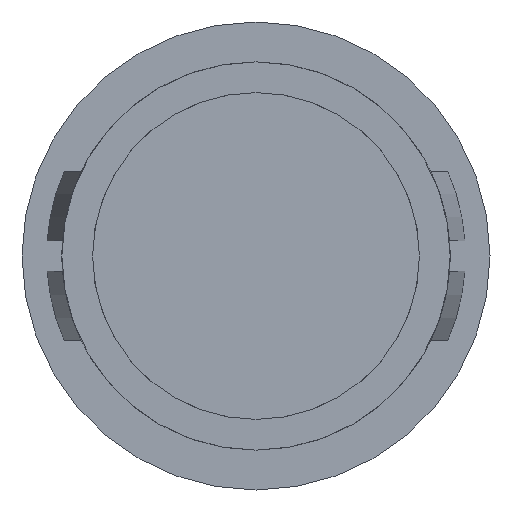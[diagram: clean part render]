
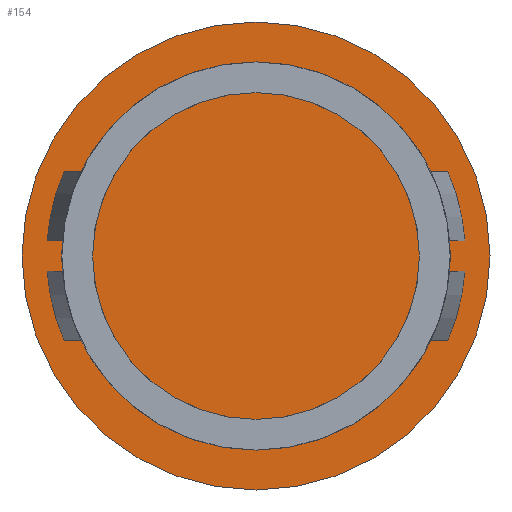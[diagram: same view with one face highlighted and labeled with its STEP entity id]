
A CAD part, front view. The second image highlights one B-rep face of the part: STEP entity #154.
In plain terms, the highlighted planar face has unit normal (0, -1, 0).
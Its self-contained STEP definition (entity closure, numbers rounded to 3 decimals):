
#8 = VERTEX_POINT ( 'NONE', #370 ) ;
#35 = ORIENTED_EDGE ( 'NONE', *, *, #1662, .T. ) ;
#39 = EDGE_CURVE ( 'NONE', #289, #1667, #551, .T. ) ;
#45 = VERTEX_POINT ( 'NONE', #616 ) ;
#62 = VERTEX_POINT ( 'NONE', #749 ) ;
#69 = ORIENTED_EDGE ( 'NONE', *, *, #99, .T. ) ;
#71 = EDGE_CURVE ( 'NONE', #62, #45, #850, .T. ) ;
#72 = EDGE_LOOP ( 'NONE', ( #235, #169 ) ) ;
#99 = EDGE_CURVE ( 'NONE', #289, #1651, #1064, .T. ) ;
#104 = EDGE_LOOP ( 'NONE', ( #69, #35, #1615, #800, #175, #225 ) ) ;
#121 = EDGE_LOOP ( 'NONE', ( #1690, #1637, #1609, #998, #488, #179 ) ) ;
#136 = VERTEX_POINT ( 'NONE', #1223 ) ;
#137 = EDGE_CURVE ( 'NONE', #240, #722, #1224, .T. ) ;
#154 = ADVANCED_FACE ( 'NONE', ( #1299, #1300, #1301 ), #1302, .T. ) ;
#163 = EDGE_CURVE ( 'NONE', #451, #267, #1357, .T. ) ;
#169 = ORIENTED_EDGE ( 'NONE', *, *, #299, .F. ) ;
#175 = ORIENTED_EDGE ( 'NONE', *, *, #1521, .F. ) ;
#179 = ORIENTED_EDGE ( 'NONE', *, *, #137, .T. ) ;
#225 = ORIENTED_EDGE ( 'NONE', *, *, #39, .F. ) ;
#235 = ORIENTED_EDGE ( 'NONE', *, *, #71, .F. ) ;
#240 = VERTEX_POINT ( 'NONE', #456 ) ;
#267 = VERTEX_POINT ( 'NONE', #533 ) ;
#289 = VERTEX_POINT ( 'NONE', #602 ) ;
#297 = EDGE_CURVE ( 'NONE', #722, #451, #650, .T. ) ;
#299 = EDGE_CURVE ( 'NONE', #45, #62, #661, .T. ) ;
#323 = EDGE_CURVE ( 'NONE', #240, #1685, #694, .T. ) ;
#370 = CARTESIAN_POINT ( 'NONE',  ( 0., 9.9, 10.65 ) ) ;
#434 = EDGE_CURVE ( 'NONE', #8, #1309, #755, .T. ) ;
#451 = VERTEX_POINT ( 'NONE', #763 ) ;
#456 = CARTESIAN_POINT ( 'NONE',  ( 8.026, 9.9, -7. ) ) ;
#488 = ORIENTED_EDGE ( 'NONE', *, *, #323, .F. ) ;
#533 = CARTESIAN_POINT ( 'NONE',  ( -10.537, 9.9, -7. ) ) ;
#551 = LINE ( 'NONE', #552, #553 ) ;
#552 = CARTESIAN_POINT ( 'NONE',  ( -15.25, 9.9, 7. ) ) ;
#553 = VECTOR ( 'NONE', #554, 1000. ) ;
#554 = DIRECTION ( 'NONE',  ( 1., 0., 0. ) ) ;
#602 = CARTESIAN_POINT ( 'NONE',  ( -10.537, 9.9, 7. ) ) ;
#616 = CARTESIAN_POINT ( 'NONE',  ( 0., 9.9, -15.25 ) ) ;
#626 = CARTESIAN_POINT ( 'NONE',  ( 0., 9.9, 12.65 ) ) ;
#650 = CIRCLE ( 'NONE', #651, 12.65 ) ;
#651 = AXIS2_PLACEMENT_3D ( 'NONE', #652, #653, #654 ) ;
#652 = CARTESIAN_POINT ( 'NONE',  ( 0., 9.9, 0. ) ) ;
#653 = DIRECTION ( 'NONE',  ( 0., 1., 0. ) ) ;
#654 = DIRECTION ( 'NONE',  ( 0., 0., 1. ) ) ;
#661 = CIRCLE ( 'NONE', #662, 15.25 ) ;
#662 = AXIS2_PLACEMENT_3D ( 'NONE', #663, #664, #665 ) ;
#663 = CARTESIAN_POINT ( 'NONE',  ( 0., 9.9, 0. ) ) ;
#664 = DIRECTION ( 'NONE',  ( 0., 1., 0. ) ) ;
#665 = DIRECTION ( 'NONE',  ( 0., 0., 1. ) ) ;
#694 = CIRCLE ( 'NONE', #695, 10.65 ) ;
#695 = AXIS2_PLACEMENT_3D ( 'NONE', #696, #697, #698 ) ;
#696 = CARTESIAN_POINT ( 'NONE',  ( 0., 9.9, 0. ) ) ;
#697 = DIRECTION ( 'NONE',  ( 0., 1., 0. ) ) ;
#698 = DIRECTION ( 'NONE',  ( 0., 0., -1. ) ) ;
#722 = VERTEX_POINT ( 'NONE', #934 ) ;
#749 = CARTESIAN_POINT ( 'NONE',  ( 0., 9.9, 15.25 ) ) ;
#755 = CIRCLE ( 'NONE', #756, 10.65 ) ;
#756 = AXIS2_PLACEMENT_3D ( 'NONE', #760, #761, #762 ) ;
#760 = CARTESIAN_POINT ( 'NONE',  ( 0., 9.9, 0. ) ) ;
#761 = DIRECTION ( 'NONE',  ( 0., 1., 0. ) ) ;
#762 = DIRECTION ( 'NONE',  ( 0., 0., -1. ) ) ;
#763 = CARTESIAN_POINT ( 'NONE',  ( 0., 9.9, -12.65 ) ) ;
#764 = CIRCLE ( 'NONE', #765, 12.65 ) ;
#765 = AXIS2_PLACEMENT_3D ( 'NONE', #766, #767, #768 ) ;
#766 = CARTESIAN_POINT ( 'NONE',  ( 0., 9.9, 0. ) ) ;
#767 = DIRECTION ( 'NONE',  ( 0., 1., 0. ) ) ;
#768 = DIRECTION ( 'NONE',  ( 0., 0., 1. ) ) ;
#800 = ORIENTED_EDGE ( 'NONE', *, *, #434, .F. ) ;
#806 = CARTESIAN_POINT ( 'NONE',  ( -8.026, 9.9, 7. ) ) ;
#850 = CIRCLE ( 'NONE', #851, 15.25 ) ;
#851 = AXIS2_PLACEMENT_3D ( 'NONE', #852, #853, #857 ) ;
#852 = CARTESIAN_POINT ( 'NONE',  ( 0., 9.9, 0. ) ) ;
#853 = DIRECTION ( 'NONE',  ( 0., 1., 0. ) ) ;
#857 = DIRECTION ( 'NONE',  ( 0., 0., 1. ) ) ;
#905 = CARTESIAN_POINT ( 'NONE',  ( 0., 9.9, -10.65 ) ) ;
#934 = CARTESIAN_POINT ( 'NONE',  ( 10.537, 9.9, -7. ) ) ;
#998 = ORIENTED_EDGE ( 'NONE', *, *, #1522, .F. ) ;
#1064 = CIRCLE ( 'NONE', #1065, 12.65 ) ;
#1065 = AXIS2_PLACEMENT_3D ( 'NONE', #1066, #1067, #1068 ) ;
#1066 = CARTESIAN_POINT ( 'NONE',  ( 0., 9.9, 0. ) ) ;
#1067 = DIRECTION ( 'NONE',  ( 0., 1., 0. ) ) ;
#1068 = DIRECTION ( 'NONE',  ( 0., 0., 1. ) ) ;
#1196 = CARTESIAN_POINT ( 'NONE',  ( -8.026, 9.9, -7. ) ) ;
#1217 = CARTESIAN_POINT ( 'NONE',  ( 8.026, 9.9, 7. ) ) ;
#1223 = CARTESIAN_POINT ( 'NONE',  ( 10.537, 9.9, 7. ) ) ;
#1224 = LINE ( 'NONE', #1225, #1226 ) ;
#1225 = CARTESIAN_POINT ( 'NONE',  ( -15.25, 9.9, -7. ) ) ;
#1226 = VECTOR ( 'NONE', #1227, 1000. ) ;
#1227 = DIRECTION ( 'NONE',  ( 1., 0., 0. ) ) ;
#1299 = FACE_BOUND ( 'NONE', #121, .T. ) ;
#1300 = FACE_BOUND ( 'NONE', #104, .T. ) ;
#1301 = FACE_OUTER_BOUND ( 'NONE', #72, .T. ) ;
#1302 = PLANE ( 'NONE',  #1303 ) ;
#1303 = AXIS2_PLACEMENT_3D ( 'NONE', #1310, #1311, #1312 ) ;
#1305 = VERTEX_POINT ( 'NONE', #1196 ) ;
#1309 = VERTEX_POINT ( 'NONE', #1217 ) ;
#1310 = CARTESIAN_POINT ( 'NONE',  ( -15.25, 9.9, 0. ) ) ;
#1311 = DIRECTION ( 'NONE',  ( 0., -1., 0. ) ) ;
#1312 = DIRECTION ( 'NONE',  ( 0., 0., -1. ) ) ;
#1323 = LINE ( 'NONE', #1324, #1325 ) ;
#1324 = CARTESIAN_POINT ( 'NONE',  ( -15.25, 9.9, -7. ) ) ;
#1325 = VECTOR ( 'NONE', #1327, 1000. ) ;
#1327 = DIRECTION ( 'NONE',  ( 1., 0., 0. ) ) ;
#1334 = CIRCLE ( 'NONE', #1335, 10.65 ) ;
#1335 = AXIS2_PLACEMENT_3D ( 'NONE', #1336, #1337, #1338 ) ;
#1336 = CARTESIAN_POINT ( 'NONE',  ( 0., 9.9, 0. ) ) ;
#1337 = DIRECTION ( 'NONE',  ( 0., 1., 0. ) ) ;
#1338 = DIRECTION ( 'NONE',  ( 0., 0., -1. ) ) ;
#1339 = CIRCLE ( 'NONE', #1340, 10.65 ) ;
#1340 = AXIS2_PLACEMENT_3D ( 'NONE', #1341, #1342, #1347 ) ;
#1341 = CARTESIAN_POINT ( 'NONE',  ( 0., 9.9, 0. ) ) ;
#1342 = DIRECTION ( 'NONE',  ( 0., 1., 0. ) ) ;
#1347 = DIRECTION ( 'NONE',  ( 0., 0., -1. ) ) ;
#1357 = CIRCLE ( 'NONE', #1358, 12.65 ) ;
#1358 = AXIS2_PLACEMENT_3D ( 'NONE', #1359, #1360, #1361 ) ;
#1359 = CARTESIAN_POINT ( 'NONE',  ( 0., 9.9, 0. ) ) ;
#1360 = DIRECTION ( 'NONE',  ( 0., 1., 0. ) ) ;
#1361 = DIRECTION ( 'NONE',  ( 0., 0., 1. ) ) ;
#1362 = LINE ( 'NONE', #1365, #1366 ) ;
#1365 = CARTESIAN_POINT ( 'NONE',  ( -15.25, 9.9, 7. ) ) ;
#1366 = VECTOR ( 'NONE', #1367, 1000. ) ;
#1367 = DIRECTION ( 'NONE',  ( 1., 0., 0. ) ) ;
#1504 = EDGE_CURVE ( 'NONE', #267, #1305, #1323, .T. ) ;
#1521 = EDGE_CURVE ( 'NONE', #1667, #8, #1334, .T. ) ;
#1522 = EDGE_CURVE ( 'NONE', #1685, #1305, #1339, .T. ) ;
#1525 = EDGE_CURVE ( 'NONE', #1309, #136, #1362, .T. ) ;
#1609 = ORIENTED_EDGE ( 'NONE', *, *, #1504, .T. ) ;
#1615 = ORIENTED_EDGE ( 'NONE', *, *, #1525, .F. ) ;
#1637 = ORIENTED_EDGE ( 'NONE', *, *, #163, .T. ) ;
#1651 = VERTEX_POINT ( 'NONE', #626 ) ;
#1662 = EDGE_CURVE ( 'NONE', #1651, #136, #764, .T. ) ;
#1667 = VERTEX_POINT ( 'NONE', #806 ) ;
#1685 = VERTEX_POINT ( 'NONE', #905 ) ;
#1690 = ORIENTED_EDGE ( 'NONE', *, *, #297, .T. ) ;
